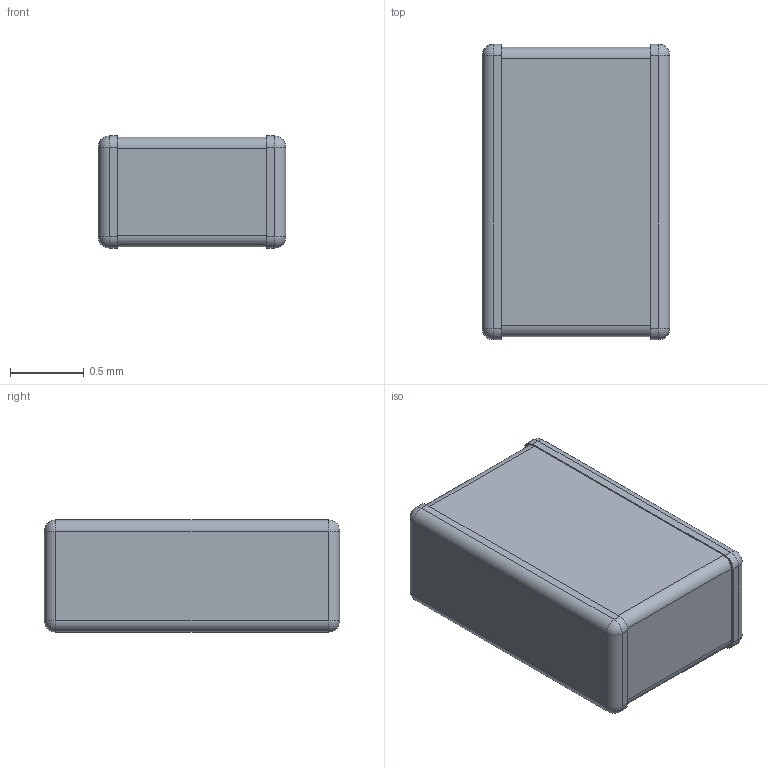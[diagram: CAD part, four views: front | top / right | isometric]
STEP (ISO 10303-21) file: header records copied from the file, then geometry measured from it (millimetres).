
FILE_DESCRIPTION(('FreeCAD Model'),'2;1');
FILE_NAME('/var/www/3D/0T/2081952.1.1.stp','2022-02-04T07:19:50',( 'Author'),(''),'Open CASCADE STEP processor 6.9','FreeCAD','Unknown' );
FILE_SCHEMA(('AUTOMOTIVE_DESIGN { 1 0 10303 214 1 1 1 1 }'));
Length unit declared in the file: millimetre
Products named in the file (4): ASSEMBLY; Fillet1; Fillet2; body2
Assembly tree (3 placements, depth 2):
  ASSEMBLY
    Fillet1
    Fillet2
    body2
Bounding box: 1.27 x 2 x 0.76 mm (x, y, z)
Volume: 1.9 mm3; surface area: 15.3 mm2
Topology: 3 solids, 3 shells, 46 faces, 104 edges, 56 vertices
Faces by surface type: cylinder 20, plane 18, sphere 8
Entity records: 2540 total; most frequent: CARTESIAN_POINT 474, DIRECTION 388, LINE 200, VECTOR 200, ORIENTED_EDGE 192, PCURVE 192, DEFINITIONAL_REPRESENTATION 192, EDGE_CURVE 96
